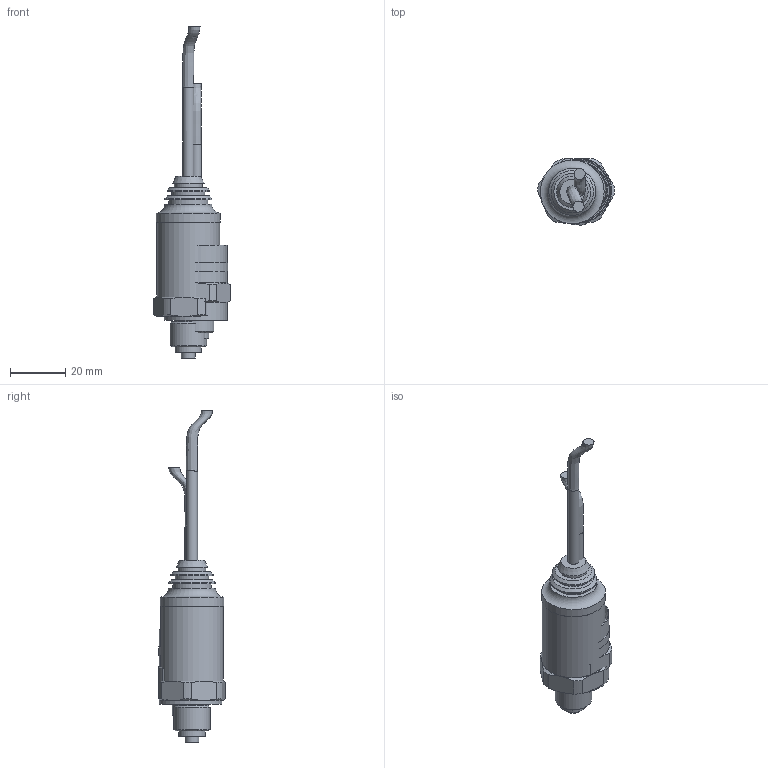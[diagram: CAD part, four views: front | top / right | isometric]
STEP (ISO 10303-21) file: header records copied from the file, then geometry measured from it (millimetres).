
FILE_DESCRIPTION( ( 'Unknown' ), '1' );
FILE_NAME( 'Z:/R&D_Marketing/R&D/5_Etudes - Adaptations/Transmetteurs/Transmetteurs 3D/CTX/CTXx.2.x.xxx.1.stp', 'Unknown', ( 'Unknown' ), ( 'Unknown' ), 'PSStep 14.0', 'Unknown', ' ' );
FILE_SCHEMA( ( 'AUTOMOTIVE_DESIGN { 1 0 10303 214 1 1 1 1 }' ) );
Length unit declared in the file: millimetre
Products named in the file (5): Assem1; 71181-02 Capot vissé CTX100; 71182-01-02 Embout; 71182-01-01 Cable; 71179-03-I07
Bounding box: 27.67 x 24.08 x 119.77 mm (x, y, z)
Volume: 25936.4 mm3; surface area: 20944.1 mm2
Topology: 6 solids, 8 shells, 212 faces, 414 edges, 258 vertices
Faces by surface type: plane 78, cylinder 60, cone 58, torus 8, bspline 8
Full cylindrical faces by diameter (mm): 4 x6, 4.1 x2, 5 x2, 6.85 x2, 9.5 x4, 10 x2, 12 x2, 13.157 x2, 13.8 x2, 14 x2, 15.291 x2, 15.5 x2, 17 x2, 17.107 x2, 18.917 x2, 19 x4, 20 x2, 20.3 x2, 22.7 x2, 23 x2
Entity records: 4647 total; most frequent: CARTESIAN_POINT 1765, DIRECTION 428, ORIENTED_EDGE 304, AXIS2_PLACEMENT_3D 202, EDGE_LOOP 186, EDGE_CURVE 152, FACE_OUTER_BOUND 138, VERTEX_POINT 124
